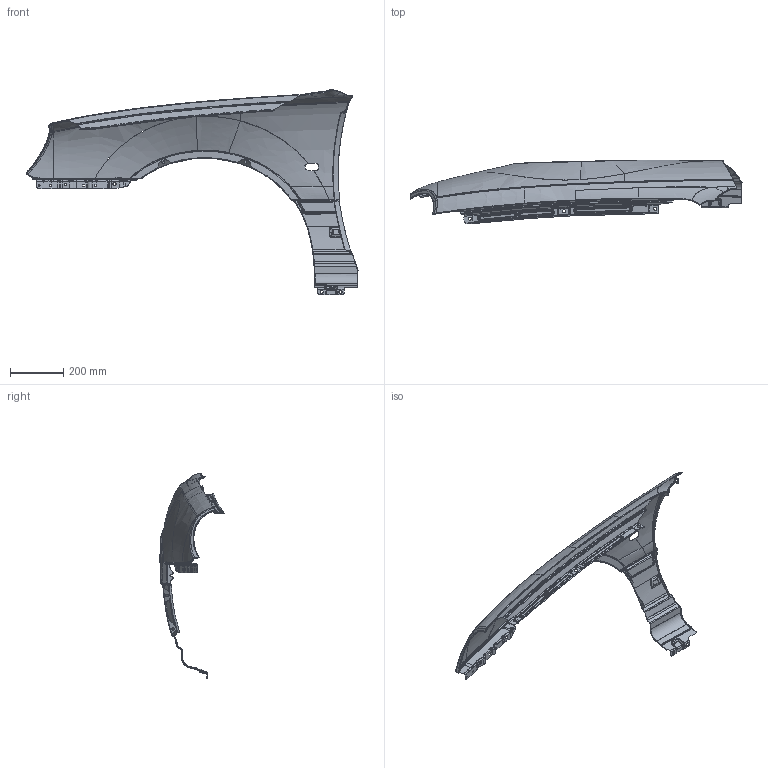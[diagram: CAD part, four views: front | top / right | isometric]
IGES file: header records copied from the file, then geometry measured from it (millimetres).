
Start section: START IGES DATA FILE
Global section: file name: fender2.igs; native system: DYNAFORM VER.3.1,DYNAFORM IGES TRANSLATOR, ENGINEERING TECHNOLOGY ASSOCIATES, INC.; preprocessor: 980406; date: 040326.154421; units: millimetre
Bounding box: 1245.73 x 240.37 x 771.15 mm (x, y, z)
Surface area: 583502.6 mm2 (no closed solid volume)
Topology: 0 solids, 0 shells, 634 faces, 30897 edges, 32291 vertices
Faces by surface type: bspline 634
